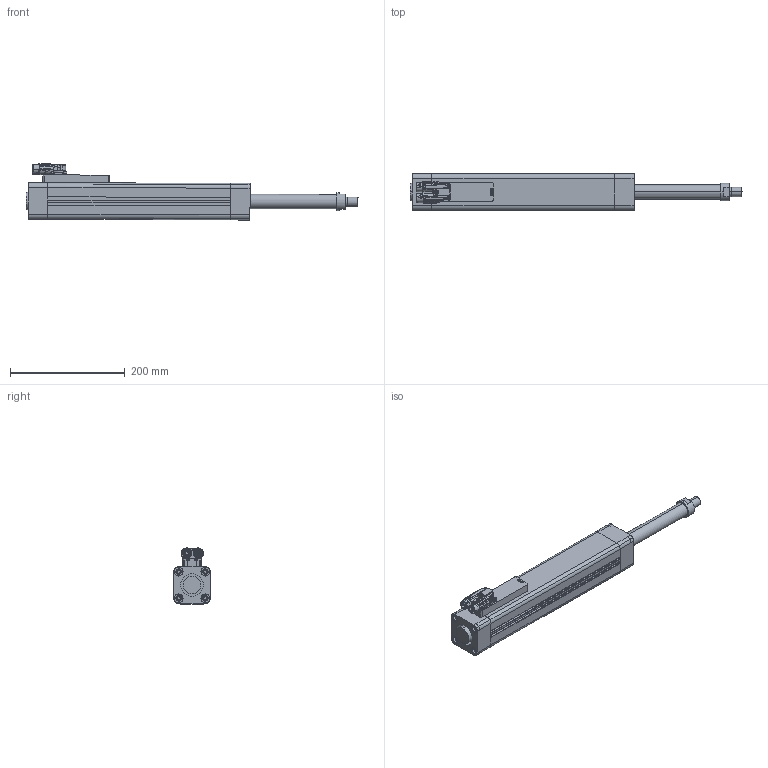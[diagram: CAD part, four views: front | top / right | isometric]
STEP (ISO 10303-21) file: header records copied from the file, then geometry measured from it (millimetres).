
FILE_DESCRIPTION(('STEP AP214'),'1');
FILE_NAME('C:/Users/Autocad/Desktop/Ass eth50 3 vuoto.stp','2013-08-28T07:37:15',(' '),(' '),'Spatial InterOp 3D',' ',' ');
FILE_SCHEMA(('automotive_design'));
Length unit declared in the file: millimetre
Products named in the file (25): Ass eth50 3 vuoto; ETH050 3.1; TAPPO NORMALE; TAPPO; Scatola; Vite M3 lunga; Connettore a y a blocchi; Pin; Vite; Pallino verde; Pallino arancione; Frutto verde; Frutto arancione; Corpo connettore; Vite M3scheda -tappo; cuscinetto; viti parker; Slider FINTO
Assembly tree (31 placements, depth 3):
  Ass eth50 3 vuoto
    ETH050 3.1
    TAPPO NORMALE
    TAPPO
    Scatola
    Vite M3 lunga  x4
    Connettore a y a blocchi
      Pin
      Vite
      Pallino verde
      Pallino arancione
      Frutto verde
      Frutto arancione
      Corpo connettore
    Vite M3scheda -tappo  x4
    cuscinetto  x2
    viti parker
    viti parker
    viti parker
    viti parker
    viti parker
    viti parker
    viti parker
    viti parker
    Slider FINTO
Bounding box: 578.05 x 63.5 x 97.6 mm (x, y, z)
Volume: 1256071.4 mm3; surface area: 340146.6 mm2
Topology: 23 solids, 1866 shells, 2429 faces, 10096 edges, 9566 vertices
Faces by surface type: cylinder 1015, plane 654, bspline 288, torus 262, cone 95, extrusion 68, sphere 47
Entity records: 160834 total; most frequent: CARTESIAN_POINT 59919, DIRECTION 14372, ORIENTED_EDGE 10139, EDGE_CURVE 9288, VERTEX_POINT 9006, AXIS2_PLACEMENT_3D 5506, STYLED_ITEM 3486, PRESENTATION_STYLE_ASSIGNMENT 3486
